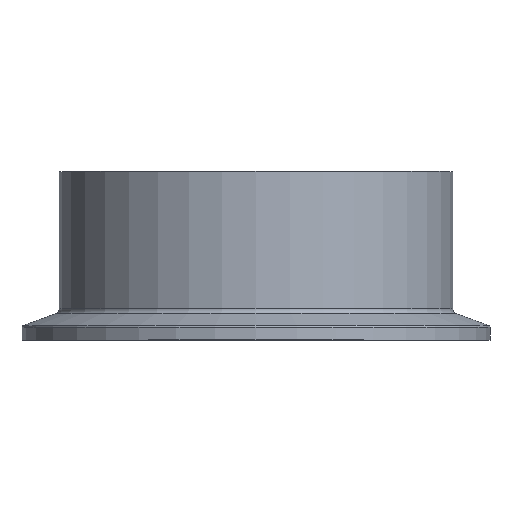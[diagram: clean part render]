
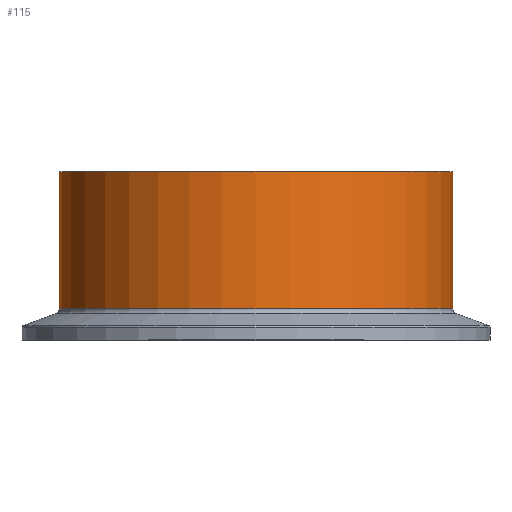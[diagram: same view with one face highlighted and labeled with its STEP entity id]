
A CAD part, top view. The second image highlights one B-rep face of the part: STEP entity #115.
In plain terms, the highlighted cylindrical face has radius 77 mm (diameter 154 mm), a full revolution.
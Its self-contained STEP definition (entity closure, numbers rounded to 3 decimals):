
#73=CARTESIAN_POINT('',(77.,66.,0.0));
#74=VERTEX_POINT('',#73);
#75=CARTESIAN_POINT('',(0.0,66.,0.0));
#76=DIRECTION('',(0.0,-1.0,0.0));
#77=DIRECTION('',(1.0,0.0,0.0));
#78=AXIS2_PLACEMENT_3D('',#75,#76,#77);
#79=CIRCLE('',#78,77.);
#80=EDGE_CURVE('',#74,#74,#79,.T.);
#96=CARTESIAN_POINT('',(0.0,39.139,0.0));
#97=DIRECTION('',(0.0,-1.0,0.0));
#98=DIRECTION('',(1.0,0.0,0.0));
#99=AXIS2_PLACEMENT_3D('',#96,#97,#98);
#100=CYLINDRICAL_SURFACE('',#99,77.0);
#101=CARTESIAN_POINT('',(77.,12.278,0.0));
#102=VERTEX_POINT('',#101);
#103=CARTESIAN_POINT('',(0.0,12.278,0.0));
#104=DIRECTION('',(0.0,-1.0,0.0));
#105=DIRECTION('',(1.0,0.0,0.0));
#106=AXIS2_PLACEMENT_3D('',#103,#104,#105);
#107=CIRCLE('',#106,77.);
#108=EDGE_CURVE('',#102,#102,#107,.T.);
#109=ORIENTED_EDGE('',*,*,#108,.F.);
#110=EDGE_LOOP('',(#109));
#111=FACE_OUTER_BOUND('',#110,.T.);
#112=ORIENTED_EDGE('',*,*,#80,.T.);
#113=EDGE_LOOP('',(#112));
#114=FACE_BOUND('',#113,.T.);
#115=ADVANCED_FACE('',(#111,#114),#100,.T.);
